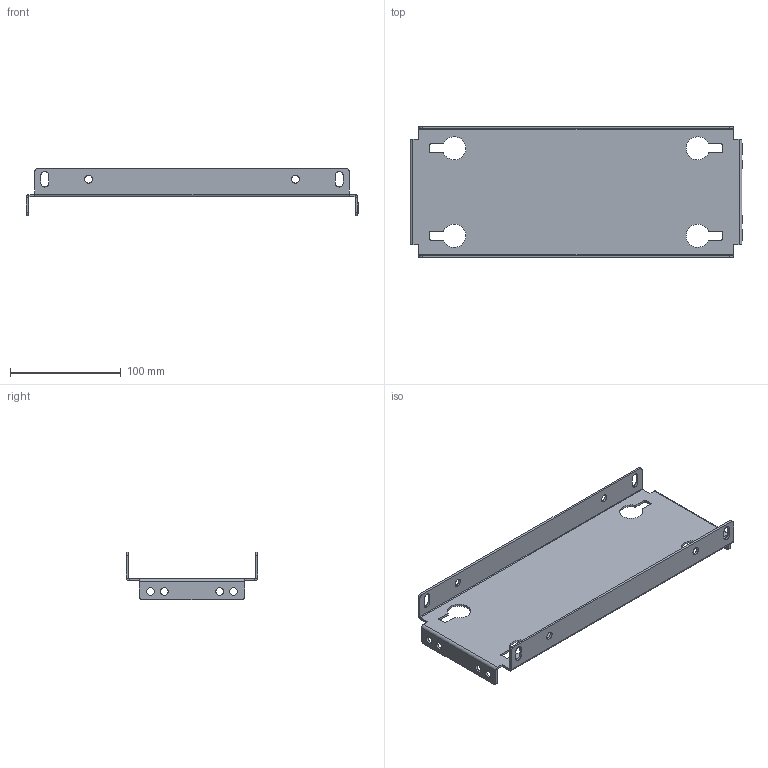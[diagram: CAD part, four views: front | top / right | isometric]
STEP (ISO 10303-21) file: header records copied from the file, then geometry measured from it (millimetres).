
FILE_DESCRIPTION (( 'STEP AP203' ), '1' );
FILE_NAME ('R5PPS1504.STEP', '2021-12-20T06:40:54', ( '' ), ( '' ), 'SwSTEP 2.0', 'SolidWorks 2020', '' );
FILE_SCHEMA (( 'CONFIG_CONTROL_DESIGN' ));
Length unit declared in the file: millimetre
Products named in the file (1): R5PPS1504
Bounding box: 300 x 119 x 43 mm (x, y, z)
Volume: 98099.9 mm3; surface area: 101602.8 mm2
Topology: 1 solids, 1 shells, 132 faces, 358 edges, 228 vertices
Faces by surface type: cylinder 74, plane 58
Entity records: 4331 total; most frequent: DIRECTION 772, CARTESIAN_POINT 719, ORIENTED_EDGE 716, EDGE_CURVE 358, AXIS2_PLACEMENT_3D 281, VERTEX_POINT 228, VECTOR 210, LINE 210
